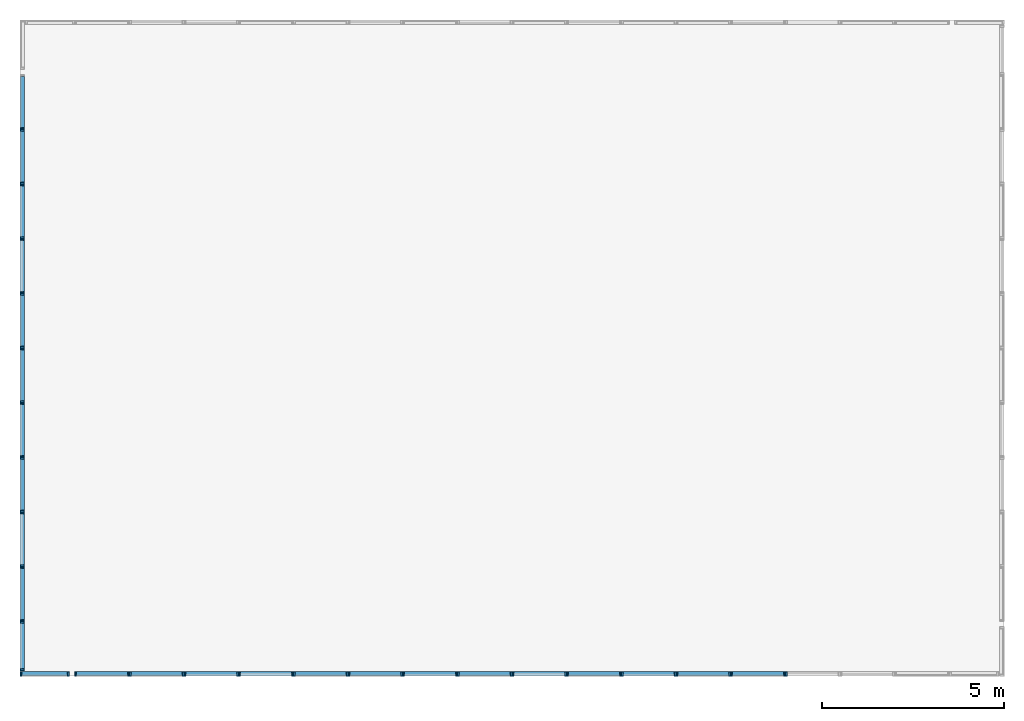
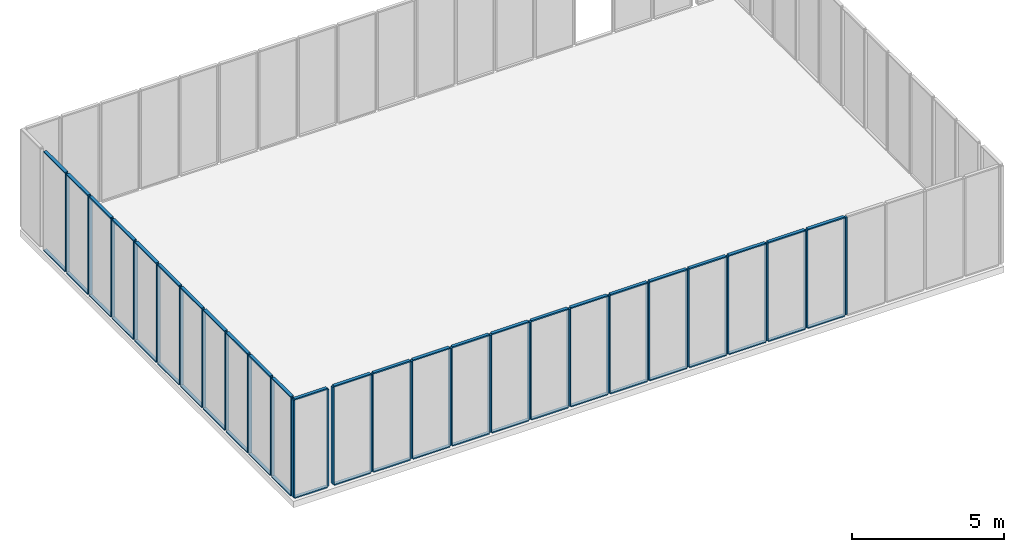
# One storey, part 1 of 4: 100 members.
"""IFC4 building model written with IfcOpenShell, lengths in metres."""

import ifcopenshell
import ifcopenshell.guid

model = None  # the IFC model being written
_history = None  # IfcOwnerHistory: only IFC2X3 demands one
_inside = {}  # id of a spatial element -> (the spatial element, [elements in it])
_under = {}  # id of a project, library or spatial element -> (it, [spatial elements below it])
_declared = {}  # id of a project -> (the project, [libraries it declares])
_typed = {}  # id of a type object -> (the type object, [elements of that type])
_made_of = {}  # id of a material, layer set ... -> (it, [elements and type objects made of it])


def new_model(schema):
    """Start an empty IFC model of exactly this schema.

    Asked for "IFC4X3", IfcOpenShell would pick the latest addendum, in which some entities
    have other attributes; the version numbers below select the first issue.
    IFC2X3 requires an IfcOwnerHistory on every rooted entity: one is made here for all.
    """
    global model, _history
    if schema == "IFC4X3":
        model = ifcopenshell.file(schema_version=(4, 3, 0, 0))
    else:
        model = ifcopenshell.file(schema=schema)
    _inside.clear()
    _under.clear()
    _declared.clear()
    _typed.clear()
    _made_of.clear()
    _history = None
    if model.schema == "IFC2X3":
        org = make("IfcOrganization", Name="unknown")
        user = make(
            "IfcPersonAndOrganization",
            ThePerson=make("IfcPerson", FamilyName="unknown"),
            TheOrganization=org,
        )
        app = make(
            "IfcApplication",
            ApplicationDeveloper=org,
            Version="unknown",
            ApplicationFullName="unknown",
            ApplicationIdentifier="unknown",
        )
        _history = make(
            "IfcOwnerHistory",
            OwningUser=user,
            OwningApplication=app,
            ChangeAction="ADDED",
            CreationDate=0,
        )
    return model


def make(cls, **values):
    """One entity of the class cls with the attributes given. An attribute that is None is left unset."""
    return model.create_entity(
        cls, **{name: value for name, value in values.items() if value is not None}
    )


def rooted(cls, **values):
    """An entity with a GlobalId (a new one), such as an element, a storey or a relation."""
    return make(cls, GlobalId=ifcopenshell.guid.new(), OwnerHistory=_history, **values)


def si_unit(unit_type, name, prefix=None):
    """IfcSIUnit, for example si_unit("LENGTHUNIT", "METRE", prefix="MILLI")."""
    return make("IfcSIUnit", UnitType=unit_type, Prefix=prefix, Name=name)


def assignment(units):
    """IfcUnitAssignment: the units of a project."""
    return None if units is None else make("IfcUnitAssignment", Units=units)


def point(xyz):
    """IfcCartesianPoint."""
    return None if xyz is None else make("IfcCartesianPoint", Coordinates=xyz)


def direction(xyz):
    """IfcDirection."""
    return None if xyz is None else make("IfcDirection", DirectionRatios=xyz)


def frame(location, z_axis=None, x_axis=None):
    """IfcAxis2Placement3D, a coordinate frame: its origin and axes. An axis left out is left unset."""
    return make(
        "IfcAxis2Placement3D",
        Location=point(location),
        Axis=direction(z_axis),
        RefDirection=direction(x_axis),
    )


def origin_with_axes():
    """The frame at (0, 0, 0) with the z axis (0, 0, 1) and the x axis (1, 0, 0) written out."""
    return frame((0.0, 0.0, 0.0), z_axis=(0.0, 0.0, 1.0), x_axis=(1.0, 0.0, 0.0))


def place(relative_to, where):
    """IfcLocalPlacement: puts the frame where relative to a parent placement (None: the world)."""
    return make(
        "IfcLocalPlacement", PlacementRelTo=relative_to, RelativePlacement=where
    )


def context(
    kind, dimensions, precision=None, world=None, true_north=None, identifier=None
):
    """IfcGeometricRepresentationContext, for example the 3D "Model" context."""
    return make(
        "IfcGeometricRepresentationContext",
        ContextIdentifier=identifier,
        ContextType=kind,
        CoordinateSpaceDimension=dimensions,
        Precision=precision,
        WorldCoordinateSystem=world,
        TrueNorth=true_north,
    )


def subcontext(parent, identifier, kind, view, scale=None):
    """IfcGeometricRepresentationSubContext, for example "Body" below "Model"."""
    return make(
        "IfcGeometricRepresentationSubContext",
        ContextIdentifier=identifier,
        ContextType=kind,
        ParentContext=parent,
        TargetScale=scale,
        TargetView=view,
    )


def project(units=None, contexts=None):
    """IfcProject with its units and contexts."""
    return rooted(
        "IfcProject",
        Name="project",
        RepresentationContexts=contexts,
        UnitsInContext=assignment(units),
    )


def spatial(cls, under=None, at=None, **own):
    """A site, building, storey or space (cls), placed at a placement, below another one or the project."""
    s = rooted(cls, ObjectPlacement=at, **own)
    if under is not None:
        _under.setdefault(under.id(), (under, []))[1].append(s)
    return s


def point_list(points):
    """IfcCartesianPointList2D or 3D."""
    cls = (
        "IfcCartesianPointList2D" if len(points[0]) == 2 else "IfcCartesianPointList3D"
    )
    return make(cls, CoordList=points)


def indexed_curve(points, segments=None, self_intersect=None):
    """IfcIndexedPolyCurve: lines and arcs through numbered points (the first is 1)."""
    return make(
        "IfcIndexedPolyCurve",
        Points=point_list(points),
        Segments=segments,
        SelfIntersect=self_intersect,
    )


def outline(outer, holes=None, kind="AREA"):
    """IfcArbitraryClosedProfileDef: a profile drawn as a closed curve; with holes, ...WithVoids."""
    if holes is None:
        return make("IfcArbitraryClosedProfileDef", ProfileType=kind, OuterCurve=outer)
    return make(
        "IfcArbitraryProfileDefWithVoids",
        ProfileType=kind,
        OuterCurve=outer,
        InnerCurves=holes,
    )


def extrude(swept, where, along, depth):
    """IfcExtrudedAreaSolid: the profile swept, set in the frame where, extruded along a direction by depth."""
    return make(
        "IfcExtrudedAreaSolid",
        SweptArea=swept,
        Position=where,
        ExtrudedDirection=direction(along),
        Depth=depth,
    )


def shape(context_of_items, identifier, shape_type, items):
    """IfcShapeRepresentation: the items that make up one representation, for example the "Body"."""
    return make(
        "IfcShapeRepresentation",
        ContextOfItems=context_of_items,
        RepresentationIdentifier=identifier,
        RepresentationType=shape_type,
        Items=items,
    )


def material(Name=None, Category=None):
    """IfcMaterial."""
    return make("IfcMaterial", Name=Name, Category=Category)


def made_of(thing, what):
    """Note that an element or type object is made of a material, layer set ...; save() writes the relation."""
    if what is not None:
        _made_of.setdefault(what.id(), (what, []))[1].append(thing)
    return thing


def element(
    cls,
    number,
    at=None,
    inside=None,
    cuts=None,
    type_object=None,
    material=None,
    context=None,
    identifier="Body",
    shape_type=None,
    held_by="IfcProductDefinitionShape",
    body=None,
    shapes=None,
    **own,
):
    """One element of the class cls, such as IfcWall. Its Tag is "e" and its number.

    at: its placement. inside: the storey or other place that contains it. cuts: it is an
    opening in that element (IfcRelVoidsElement). A single representation is given by context,
    identifier, shape_type and body (its items); several are given by shapes. held_by: the class
    of the entity that holds the representations. save() writes the other relations.
    """
    e = rooted(cls, Tag="e%d" % number, ObjectPlacement=at, **own)
    if body is not None:
        shapes = [shape(context, identifier, shape_type, body)]
    if shapes is not None:
        e.Representation = make(held_by, Representations=shapes)
    if inside is not None:
        _inside.setdefault(inside.id(), (inside, []))[1].append(e)
    if cuts is not None:
        rooted(
            "IfcRelVoidsElement", RelatingBuildingElement=cuts, RelatedOpeningElement=e
        )
    if type_object is not None:
        _typed.setdefault(type_object.id(), (type_object, []))[1].append(e)
    return made_of(e, material)


def aggregate(whole, parts):
    """IfcRelAggregates: a whole, such as a stair, and the parts it consists of."""
    return rooted("IfcRelAggregates", RelatingObject=whole, RelatedObjects=parts)


def save(model, path):
    """Write the relations noted so far, then the file.

    IfcRelAggregates (storeys below a building ...), IfcRelContainedInSpatialStructure (elements
    in a storey), IfcRelDefinesByType, IfcRelAssociatesMaterial and IfcRelDeclares: one each for
    every whole, place, type object, material and project.
    """
    for whole, parts in _under.values():
        aggregate(whole, parts)
    for where, things in _inside.values():
        rooted(
            "IfcRelContainedInSpatialStructure",
            RelatedElements=things,
            RelatingStructure=where,
        )
    for kind, things in _typed.values():
        rooted("IfcRelDefinesByType", RelatedObjects=things, RelatingType=kind)
    for what, things in _made_of.values():
        rooted("IfcRelAssociatesMaterial", RelatedObjects=things, RelatingMaterial=what)
    for by, libraries in _declared.values():
        rooted("IfcRelDeclares", RelatingContext=by, RelatedDefinitions=libraries)
    model.write(path)


model = new_model("IFC4")

# Units and contexts
model_context = context("Model", 3, precision=1e-05, world=origin_with_axes())
body_context = subcontext(model_context, "Body", "Model", "MODEL_VIEW")
ifc_project = project(units=[si_unit("AREAUNIT", "SQUARE_METRE"), si_unit("VOLUMEUNIT", "CUBIC_METRE"), si_unit("LENGTHUNIT", "METRE")], contexts=[model_context])

# Site, building, storey
site = spatial("IfcSite", under=ifc_project, Name="Synthetic Site")
building = spatial("IfcBuilding", under=site, Name="Complex Tower")
storey_placement = place(None, frame((0.0, 0.0, 8.4), z_axis=(0.0, 0.0, 1.0), x_axis=(1.0, 0.0, 0.0)))
storey = spatial("IfcBuildingStorey", under=building, at=storey_placement, Name="L03", Elevation=8.4)

# Members
ifc_material = material(Name="Aluminium")
for number, where, z_axis, x_axis, name in (
    (1, (0.0, 0.0, 0.15000000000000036), (0.0, 0.0, 1.0), (1.0, 0.0, 0.0), "CT-L03-S-001-ML"),
    (2, (1.3, 0.0, 0.15000000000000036), (0.0, 0.0, 1.0), (1.0, 0.0, 0.0), "CT-L03-S-001-MR"),
):
    element("IfcMember", number, at=place(storey_placement, frame(where, z_axis=z_axis, x_axis=x_axis)), inside=storey, material=ifc_material, Name=name, PredefinedType="MULLION", context=body_context, shape_type="SweptSolid", body=[
        extrude(outline(indexed_curve([(0.0, 0.0), (0.0, 0.12), (0.05, 0.12), (0.05, 0.0), (0.0, 0.0)], self_intersect=False)), origin_with_axes(), (0.0, 0.0, 1.0), 3.9000000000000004),
    ])
for number, where, z_axis, x_axis, name in (
    (3, (0.05, 0.0, 0.09999999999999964), (0.0, 0.0, 1.0), (1.0, 0.0, 0.0), "CT-L03-S-001-FB"),
    (4, (0.05, 0.0, 4.050000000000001), (0.0, 0.0, 1.0), (1.0, 0.0, 0.0), "CT-L03-S-001-FT"),
):
    element("IfcMember", number, at=place(storey_placement, frame(where, z_axis=z_axis, x_axis=x_axis)), inside=storey, material=ifc_material, Name=name, PredefinedType="MULLION", context=body_context, shape_type="SweptSolid", body=[
        extrude(outline(indexed_curve([(0.0, 0.0), (0.0, 0.12), (1.25, 0.12), (1.25, 0.0), (0.0, 0.0)], self_intersect=False)), origin_with_axes(), (0.0, 0.0, 1.0), 0.05),
    ])
for number, where, z_axis, x_axis, name in (
    (5, (1.5, 0.0, 0.15000000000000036), (0.0, 0.0, 1.0), (1.0, 0.0, 0.0), "CT-L03-S-002-ML"),
    (6, (2.95, 0.0, 0.15000000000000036), (0.0, 0.0, 1.0), (1.0, 0.0, 0.0), "CT-L03-S-002-MR"),
):
    element("IfcMember", number, at=place(storey_placement, frame(where, z_axis=z_axis, x_axis=x_axis)), inside=storey, material=ifc_material, Name=name, PredefinedType="MULLION", context=body_context, shape_type="SweptSolid", body=[
        extrude(outline(indexed_curve([(0.0, 0.0), (0.0, 0.12), (0.05, 0.12), (0.05, 0.0), (0.0, 0.0)], self_intersect=False)), origin_with_axes(), (0.0, 0.0, 1.0), 3.9000000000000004),
    ])
for number, where, z_axis, x_axis, name in (
    (7, (1.55, 0.0, 0.09999999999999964), (0.0, 0.0, 1.0), (1.0, 0.0, 0.0), "CT-L03-S-002-FB"),
    (8, (1.55, 0.0, 4.050000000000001), (0.0, 0.0, 1.0), (1.0, 0.0, 0.0), "CT-L03-S-002-FT"),
):
    element("IfcMember", number, at=place(storey_placement, frame(where, z_axis=z_axis, x_axis=x_axis)), inside=storey, material=ifc_material, Name=name, PredefinedType="MULLION", context=body_context, shape_type="SweptSolid", body=[
        extrude(outline(indexed_curve([(0.0, 0.0), (0.0, 0.12), (1.4, 0.12), (1.4, 0.0), (0.0, 0.0)], self_intersect=False)), origin_with_axes(), (0.0, 0.0, 1.0), 0.05),
    ])
for number, where, z_axis, x_axis, name in (
    (9, (3.0, 0.0, 0.15000000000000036), (0.0, 0.0, 1.0), (1.0, 0.0, 0.0), "CT-L03-S-003-ML"),
    (10, (4.449999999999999, 0.0, 0.15000000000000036), (0.0, 0.0, 1.0), (1.0, 0.0, 0.0), "CT-L03-S-003-MR"),
):
    element("IfcMember", number, at=place(storey_placement, frame(where, z_axis=z_axis, x_axis=x_axis)), inside=storey, material=ifc_material, Name=name, PredefinedType="MULLION", context=body_context, shape_type="SweptSolid", body=[
        extrude(outline(indexed_curve([(0.0, 0.0), (0.0, 0.12), (0.05, 0.12), (0.05, 0.0), (0.0, 0.0)], self_intersect=False)), origin_with_axes(), (0.0, 0.0, 1.0), 3.9000000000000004),
    ])
for number, where, z_axis, x_axis, name in (
    (11, (3.05, 0.0, 0.09999999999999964), (0.0, 0.0, 1.0), (1.0, 0.0, 0.0), "CT-L03-S-003-FB"),
    (12, (3.05, 0.0, 4.050000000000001), (0.0, 0.0, 1.0), (1.0, 0.0, 0.0), "CT-L03-S-003-FT"),
):
    element("IfcMember", number, at=place(storey_placement, frame(where, z_axis=z_axis, x_axis=x_axis)), inside=storey, material=ifc_material, Name=name, PredefinedType="MULLION", context=body_context, shape_type="SweptSolid", body=[
        extrude(outline(indexed_curve([(0.0, 0.0), (0.0, 0.12), (1.4, 0.12), (1.4, 0.0), (0.0, 0.0)], self_intersect=False)), origin_with_axes(), (0.0, 0.0, 1.0), 0.05),
    ])
for number, where, z_axis, x_axis, name in (
    (13, (4.5, 0.0, 0.15000000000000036), (0.0, 0.0, 1.0), (1.0, 0.0, 0.0), "CT-L03-S-004-ML"),
    (14, (5.949999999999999, 0.0, 0.15000000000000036), (0.0, 0.0, 1.0), (1.0, 0.0, 0.0), "CT-L03-S-004-MR"),
):
    element("IfcMember", number, at=place(storey_placement, frame(where, z_axis=z_axis, x_axis=x_axis)), inside=storey, material=ifc_material, Name=name, PredefinedType="MULLION", context=body_context, shape_type="SweptSolid", body=[
        extrude(outline(indexed_curve([(0.0, 0.0), (0.0, 0.12), (0.05, 0.12), (0.05, 0.0), (0.0, 0.0)], self_intersect=False)), origin_with_axes(), (0.0, 0.0, 1.0), 3.9000000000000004),
    ])
for number, where, z_axis, x_axis, name in (
    (15, (4.55, 0.0, 0.09999999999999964), (0.0, 0.0, 1.0), (1.0, 0.0, 0.0), "CT-L03-S-004-FB"),
    (16, (4.55, 0.0, 4.050000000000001), (0.0, 0.0, 1.0), (1.0, 0.0, 0.0), "CT-L03-S-004-FT"),
):
    element("IfcMember", number, at=place(storey_placement, frame(where, z_axis=z_axis, x_axis=x_axis)), inside=storey, material=ifc_material, Name=name, PredefinedType="MULLION", context=body_context, shape_type="SweptSolid", body=[
        extrude(outline(indexed_curve([(0.0, 0.0), (0.0, 0.12), (1.4, 0.12), (1.4, 0.0), (0.0, 0.0)], self_intersect=False)), origin_with_axes(), (0.0, 0.0, 1.0), 0.05),
    ])
for number, where, z_axis, x_axis, name in (
    (17, (6.0, 0.0, 0.15000000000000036), (0.0, 0.0, 1.0), (1.0, 0.0, 0.0), "CT-L03-S-005-ML"),
    (18, (7.449999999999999, 0.0, 0.15000000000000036), (0.0, 0.0, 1.0), (1.0, 0.0, 0.0), "CT-L03-S-005-MR"),
):
    element("IfcMember", number, at=place(storey_placement, frame(where, z_axis=z_axis, x_axis=x_axis)), inside=storey, material=ifc_material, Name=name, PredefinedType="MULLION", context=body_context, shape_type="SweptSolid", body=[
        extrude(outline(indexed_curve([(0.0, 0.0), (0.0, 0.12), (0.05, 0.12), (0.05, 0.0), (0.0, 0.0)], self_intersect=False)), origin_with_axes(), (0.0, 0.0, 1.0), 3.9000000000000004),
    ])
for number, where, z_axis, x_axis, name in (
    (19, (6.05, 0.0, 0.09999999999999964), (0.0, 0.0, 1.0), (1.0, 0.0, 0.0), "CT-L03-S-005-FB"),
    (20, (6.05, 0.0, 4.050000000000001), (0.0, 0.0, 1.0), (1.0, 0.0, 0.0), "CT-L03-S-005-FT"),
):
    element("IfcMember", number, at=place(storey_placement, frame(where, z_axis=z_axis, x_axis=x_axis)), inside=storey, material=ifc_material, Name=name, PredefinedType="MULLION", context=body_context, shape_type="SweptSolid", body=[
        extrude(outline(indexed_curve([(0.0, 0.0), (0.0, 0.12), (1.4, 0.12), (1.4, 0.0), (0.0, 0.0)], self_intersect=False)), origin_with_axes(), (0.0, 0.0, 1.0), 0.05),
    ])
for number, where, z_axis, x_axis, name in (
    (21, (7.5, 0.0, 0.15000000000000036), (0.0, 0.0, 1.0), (1.0, 0.0, 0.0), "CT-L03-S-006-ML"),
    (22, (8.95, 0.0, 0.15000000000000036), (0.0, 0.0, 1.0), (1.0, 0.0, 0.0), "CT-L03-S-006-MR"),
):
    element("IfcMember", number, at=place(storey_placement, frame(where, z_axis=z_axis, x_axis=x_axis)), inside=storey, material=ifc_material, Name=name, PredefinedType="MULLION", context=body_context, shape_type="SweptSolid", body=[
        extrude(outline(indexed_curve([(0.0, 0.0), (0.0, 0.12), (0.05, 0.12), (0.05, 0.0), (0.0, 0.0)], self_intersect=False)), origin_with_axes(), (0.0, 0.0, 1.0), 3.9000000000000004),
    ])
for number, where, z_axis, x_axis, name in (
    (23, (7.55, 0.0, 0.09999999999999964), (0.0, 0.0, 1.0), (1.0, 0.0, 0.0), "CT-L03-S-006-FB"),
    (24, (7.55, 0.0, 4.050000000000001), (0.0, 0.0, 1.0), (1.0, 0.0, 0.0), "CT-L03-S-006-FT"),
):
    element("IfcMember", number, at=place(storey_placement, frame(where, z_axis=z_axis, x_axis=x_axis)), inside=storey, material=ifc_material, Name=name, PredefinedType="MULLION", context=body_context, shape_type="SweptSolid", body=[
        extrude(outline(indexed_curve([(0.0, 0.0), (0.0, 0.12), (1.4, 0.12), (1.4, 0.0), (0.0, 0.0)], self_intersect=False)), origin_with_axes(), (0.0, 0.0, 1.0), 0.05),
    ])
for number, where, z_axis, x_axis, name in (
    (25, (9.0, 0.0, 0.15000000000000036), (0.0, 0.0, 1.0), (1.0, 0.0, 0.0), "CT-L03-S-007-ML"),
    (26, (10.450000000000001, 0.0, 0.15000000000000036), (0.0, 0.0, 1.0), (1.0, 0.0, 0.0), "CT-L03-S-007-MR"),
):
    element("IfcMember", number, at=place(storey_placement, frame(where, z_axis=z_axis, x_axis=x_axis)), inside=storey, material=ifc_material, Name=name, PredefinedType="MULLION", context=body_context, shape_type="SweptSolid", body=[
        extrude(outline(indexed_curve([(0.0, 0.0), (0.0, 0.12), (0.05, 0.12), (0.05, 0.0), (0.0, 0.0)], self_intersect=False)), origin_with_axes(), (0.0, 0.0, 1.0), 3.9000000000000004),
    ])
for number, where, z_axis, x_axis, name in (
    (27, (9.05, 0.0, 0.09999999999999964), (0.0, 0.0, 1.0), (1.0, 0.0, 0.0), "CT-L03-S-007-FB"),
    (28, (9.05, 0.0, 4.050000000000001), (0.0, 0.0, 1.0), (1.0, 0.0, 0.0), "CT-L03-S-007-FT"),
):
    element("IfcMember", number, at=place(storey_placement, frame(where, z_axis=z_axis, x_axis=x_axis)), inside=storey, material=ifc_material, Name=name, PredefinedType="MULLION", context=body_context, shape_type="SweptSolid", body=[
        extrude(outline(indexed_curve([(0.0, 0.0), (0.0, 0.12), (1.4, 0.12), (1.4, 0.0), (0.0, 0.0)], self_intersect=False)), origin_with_axes(), (0.0, 0.0, 1.0), 0.05),
    ])
for number, where, z_axis, x_axis, name in (
    (29, (10.5, 0.0, 0.15000000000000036), (0.0, 0.0, 1.0), (1.0, 0.0, 0.0), "CT-L03-S-008-ML"),
    (30, (11.950000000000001, 0.0, 0.15000000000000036), (0.0, 0.0, 1.0), (1.0, 0.0, 0.0), "CT-L03-S-008-MR"),
):
    element("IfcMember", number, at=place(storey_placement, frame(where, z_axis=z_axis, x_axis=x_axis)), inside=storey, material=ifc_material, Name=name, PredefinedType="MULLION", context=body_context, shape_type="SweptSolid", body=[
        extrude(outline(indexed_curve([(0.0, 0.0), (0.0, 0.12), (0.05, 0.12), (0.05, 0.0), (0.0, 0.0)], self_intersect=False)), origin_with_axes(), (0.0, 0.0, 1.0), 3.9000000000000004),
    ])
for number, where, z_axis, x_axis, name in (
    (31, (10.55, 0.0, 0.09999999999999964), (0.0, 0.0, 1.0), (1.0, 0.0, 0.0), "CT-L03-S-008-FB"),
    (32, (10.55, 0.0, 4.050000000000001), (0.0, 0.0, 1.0), (1.0, 0.0, 0.0), "CT-L03-S-008-FT"),
):
    element("IfcMember", number, at=place(storey_placement, frame(where, z_axis=z_axis, x_axis=x_axis)), inside=storey, material=ifc_material, Name=name, PredefinedType="MULLION", context=body_context, shape_type="SweptSolid", body=[
        extrude(outline(indexed_curve([(0.0, 0.0), (0.0, 0.12), (1.4, 0.12), (1.4, 0.0), (0.0, 0.0)], self_intersect=False)), origin_with_axes(), (0.0, 0.0, 1.0), 0.05),
    ])
for number, where, z_axis, x_axis, name in (
    (33, (12.0, 0.0, 0.15000000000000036), (0.0, 0.0, 1.0), (1.0, 0.0, 0.0), "CT-L03-S-009-ML"),
    (34, (13.450000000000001, 0.0, 0.15000000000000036), (0.0, 0.0, 1.0), (1.0, 0.0, 0.0), "CT-L03-S-009-MR"),
):
    element("IfcMember", number, at=place(storey_placement, frame(where, z_axis=z_axis, x_axis=x_axis)), inside=storey, material=ifc_material, Name=name, PredefinedType="MULLION", context=body_context, shape_type="SweptSolid", body=[
        extrude(outline(indexed_curve([(0.0, 0.0), (0.0, 0.12), (0.05, 0.12), (0.05, 0.0), (0.0, 0.0)], self_intersect=False)), origin_with_axes(), (0.0, 0.0, 1.0), 3.9000000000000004),
    ])
for number, where, z_axis, x_axis, name in (
    (35, (12.05, 0.0, 0.09999999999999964), (0.0, 0.0, 1.0), (1.0, 0.0, 0.0), "CT-L03-S-009-FB"),
    (36, (12.05, 0.0, 4.050000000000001), (0.0, 0.0, 1.0), (1.0, 0.0, 0.0), "CT-L03-S-009-FT"),
):
    element("IfcMember", number, at=place(storey_placement, frame(where, z_axis=z_axis, x_axis=x_axis)), inside=storey, material=ifc_material, Name=name, PredefinedType="MULLION", context=body_context, shape_type="SweptSolid", body=[
        extrude(outline(indexed_curve([(0.0, 0.0), (0.0, 0.12), (1.4, 0.12), (1.4, 0.0), (0.0, 0.0)], self_intersect=False)), origin_with_axes(), (0.0, 0.0, 1.0), 0.05),
    ])
for number, where, z_axis, x_axis, name in (
    (37, (13.5, 0.0, 0.15000000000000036), (0.0, 0.0, 1.0), (1.0, 0.0, 0.0), "CT-L03-S-010-ML"),
    (38, (14.950000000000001, 0.0, 0.15000000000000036), (0.0, 0.0, 1.0), (1.0, 0.0, 0.0), "CT-L03-S-010-MR"),
):
    element("IfcMember", number, at=place(storey_placement, frame(where, z_axis=z_axis, x_axis=x_axis)), inside=storey, material=ifc_material, Name=name, PredefinedType="MULLION", context=body_context, shape_type="SweptSolid", body=[
        extrude(outline(indexed_curve([(0.0, 0.0), (0.0, 0.12), (0.05, 0.12), (0.05, 0.0), (0.0, 0.0)], self_intersect=False)), origin_with_axes(), (0.0, 0.0, 1.0), 3.9000000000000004),
    ])
for number, where, z_axis, x_axis, name in (
    (39, (13.55, 0.0, 0.09999999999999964), (0.0, 0.0, 1.0), (1.0, 0.0, 0.0), "CT-L03-S-010-FB"),
    (40, (13.55, 0.0, 4.050000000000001), (0.0, 0.0, 1.0), (1.0, 0.0, 0.0), "CT-L03-S-010-FT"),
):
    element("IfcMember", number, at=place(storey_placement, frame(where, z_axis=z_axis, x_axis=x_axis)), inside=storey, material=ifc_material, Name=name, PredefinedType="MULLION", context=body_context, shape_type="SweptSolid", body=[
        extrude(outline(indexed_curve([(0.0, 0.0), (0.0, 0.12), (1.4, 0.12), (1.4, 0.0), (0.0, 0.0)], self_intersect=False)), origin_with_axes(), (0.0, 0.0, 1.0), 0.05),
    ])
for number, where, z_axis, x_axis, name in (
    (41, (15.0, 0.0, 0.15000000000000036), (0.0, 0.0, 1.0), (1.0, 0.0, 0.0), "CT-L03-S-011-ML"),
    (42, (16.45, 0.0, 0.15000000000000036), (0.0, 0.0, 1.0), (1.0, 0.0, 0.0), "CT-L03-S-011-MR"),
):
    element("IfcMember", number, at=place(storey_placement, frame(where, z_axis=z_axis, x_axis=x_axis)), inside=storey, material=ifc_material, Name=name, PredefinedType="MULLION", context=body_context, shape_type="SweptSolid", body=[
        extrude(outline(indexed_curve([(0.0, 0.0), (0.0, 0.12), (0.05, 0.12), (0.05, 0.0), (0.0, 0.0)], self_intersect=False)), origin_with_axes(), (0.0, 0.0, 1.0), 3.9000000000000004),
    ])
for number, where, z_axis, x_axis, name in (
    (43, (15.05, 0.0, 0.09999999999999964), (0.0, 0.0, 1.0), (1.0, 0.0, 0.0), "CT-L03-S-011-FB"),
    (44, (15.05, 0.0, 4.050000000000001), (0.0, 0.0, 1.0), (1.0, 0.0, 0.0), "CT-L03-S-011-FT"),
):
    element("IfcMember", number, at=place(storey_placement, frame(where, z_axis=z_axis, x_axis=x_axis)), inside=storey, material=ifc_material, Name=name, PredefinedType="MULLION", context=body_context, shape_type="SweptSolid", body=[
        extrude(outline(indexed_curve([(0.0, 0.0), (0.0, 0.12), (1.4, 0.12), (1.4, 0.0), (0.0, 0.0)], self_intersect=False)), origin_with_axes(), (0.0, 0.0, 1.0), 0.05),
    ])
for number, where, z_axis, x_axis, name in (
    (45, (16.5, 0.0, 0.15000000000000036), (0.0, 0.0, 1.0), (1.0, 0.0, 0.0), "CT-L03-S-012-ML"),
    (46, (17.95, 0.0, 0.15000000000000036), (0.0, 0.0, 1.0), (1.0, 0.0, 0.0), "CT-L03-S-012-MR"),
):
    element("IfcMember", number, at=place(storey_placement, frame(where, z_axis=z_axis, x_axis=x_axis)), inside=storey, material=ifc_material, Name=name, PredefinedType="MULLION", context=body_context, shape_type="SweptSolid", body=[
        extrude(outline(indexed_curve([(0.0, 0.0), (0.0, 0.12), (0.05, 0.12), (0.05, 0.0), (0.0, 0.0)], self_intersect=False)), origin_with_axes(), (0.0, 0.0, 1.0), 3.9000000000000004),
    ])
for number, where, z_axis, x_axis, name in (
    (47, (16.55, 0.0, 0.09999999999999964), (0.0, 0.0, 1.0), (1.0, 0.0, 0.0), "CT-L03-S-012-FB"),
    (48, (16.55, 0.0, 4.050000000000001), (0.0, 0.0, 1.0), (1.0, 0.0, 0.0), "CT-L03-S-012-FT"),
):
    element("IfcMember", number, at=place(storey_placement, frame(where, z_axis=z_axis, x_axis=x_axis)), inside=storey, material=ifc_material, Name=name, PredefinedType="MULLION", context=body_context, shape_type="SweptSolid", body=[
        extrude(outline(indexed_curve([(0.0, 0.0), (0.0, 0.12), (1.4, 0.12), (1.4, 0.0), (0.0, 0.0)], self_intersect=False)), origin_with_axes(), (0.0, 0.0, 1.0), 0.05),
    ])
for number, where, z_axis, x_axis, name in (
    (49, (18.0, 0.0, 0.15000000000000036), (0.0, 0.0, 1.0), (1.0, 0.0, 0.0), "CT-L03-S-013-ML"),
    (50, (19.45, 0.0, 0.15000000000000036), (0.0, 0.0, 1.0), (1.0, 0.0, 0.0), "CT-L03-S-013-MR"),
):
    element("IfcMember", number, at=place(storey_placement, frame(where, z_axis=z_axis, x_axis=x_axis)), inside=storey, material=ifc_material, Name=name, PredefinedType="MULLION", context=body_context, shape_type="SweptSolid", body=[
        extrude(outline(indexed_curve([(0.0, 0.0), (0.0, 0.12), (0.05, 0.12), (0.05, 0.0), (0.0, 0.0)], self_intersect=False)), origin_with_axes(), (0.0, 0.0, 1.0), 3.9000000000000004),
    ])
for number, where, z_axis, x_axis, name in (
    (51, (18.05, 0.0, 0.09999999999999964), (0.0, 0.0, 1.0), (1.0, 0.0, 0.0), "CT-L03-S-013-FB"),
    (52, (18.05, 0.0, 4.050000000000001), (0.0, 0.0, 1.0), (1.0, 0.0, 0.0), "CT-L03-S-013-FT"),
):
    element("IfcMember", number, at=place(storey_placement, frame(where, z_axis=z_axis, x_axis=x_axis)), inside=storey, material=ifc_material, Name=name, PredefinedType="MULLION", context=body_context, shape_type="SweptSolid", body=[
        extrude(outline(indexed_curve([(0.0, 0.0), (0.0, 0.12), (1.4, 0.12), (1.4, 0.0), (0.0, 0.0)], self_intersect=False)), origin_with_axes(), (0.0, 0.0, 1.0), 0.05),
    ])
for number, where, z_axis, x_axis, name in (
    (53, (19.5, 0.0, 0.15000000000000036), (0.0, 0.0, 1.0), (1.0, 0.0, 0.0), "CT-L03-S-014-ML"),
    (54, (20.95, 0.0, 0.15000000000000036), (0.0, 0.0, 1.0), (1.0, 0.0, 0.0), "CT-L03-S-014-MR"),
):
    element("IfcMember", number, at=place(storey_placement, frame(where, z_axis=z_axis, x_axis=x_axis)), inside=storey, material=ifc_material, Name=name, PredefinedType="MULLION", context=body_context, shape_type="SweptSolid", body=[
        extrude(outline(indexed_curve([(0.0, 0.0), (0.0, 0.12), (0.05, 0.12), (0.05, 0.0), (0.0, 0.0)], self_intersect=False)), origin_with_axes(), (0.0, 0.0, 1.0), 3.9000000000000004),
    ])
for number, where, z_axis, x_axis, name in (
    (55, (19.55, 0.0, 0.09999999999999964), (0.0, 0.0, 1.0), (1.0, 0.0, 0.0), "CT-L03-S-014-FB"),
    (56, (19.55, 0.0, 4.050000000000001), (0.0, 0.0, 1.0), (1.0, 0.0, 0.0), "CT-L03-S-014-FT"),
):
    element("IfcMember", number, at=place(storey_placement, frame(where, z_axis=z_axis, x_axis=x_axis)), inside=storey, material=ifc_material, Name=name, PredefinedType="MULLION", context=body_context, shape_type="SweptSolid", body=[
        extrude(outline(indexed_curve([(0.0, 0.0), (0.0, 0.12), (1.4, 0.12), (1.4, 0.0), (0.0, 0.0)], self_intersect=False)), origin_with_axes(), (0.0, 0.0, 1.0), 0.05),
    ])
for number, where, z_axis, x_axis, name in (
    (57, (21.0, 0.0, 0.15000000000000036), (0.0, 0.0, 1.0), (1.0, 0.0, 0.0), "CT-L03-S-015-ML"),
    (58, (-5.419062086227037e-16, 15.049999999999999, 0.15000000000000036), (0.0, 0.0, 1.0), (-1.8369701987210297e-16, -1.0, 0.0), "CT-L03-W-002-MR"),
):
    element("IfcMember", number, at=place(storey_placement, frame(where, z_axis=z_axis, x_axis=x_axis)), inside=storey, material=ifc_material, Name=name, PredefinedType="MULLION", context=body_context, shape_type="SweptSolid", body=[
        extrude(outline(indexed_curve([(0.0, 0.0), (0.0, 0.12), (0.05, 0.12), (0.05, 0.0), (0.0, 0.0)], self_intersect=False)), origin_with_axes(), (0.0, 0.0, 1.0), 3.9000000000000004),
    ])
for number, where, z_axis, x_axis, name in (
    (59, (-2.847303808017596e-16, 16.45, 0.09999999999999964), (0.0, 0.0, 1.0), (-1.8369701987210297e-16, -1.0, 0.0), "CT-L03-W-002-FB"),
    (60, (-2.847303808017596e-16, 16.45, 4.050000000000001), (0.0, 0.0, 1.0), (-1.8369701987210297e-16, -1.0, 0.0), "CT-L03-W-002-FT"),
):
    element("IfcMember", number, at=place(storey_placement, frame(where, z_axis=z_axis, x_axis=x_axis)), inside=storey, material=ifc_material, Name=name, PredefinedType="MULLION", context=body_context, shape_type="SweptSolid", body=[
        extrude(outline(indexed_curve([(0.0, 0.0), (0.0, 0.12), (1.4, 0.12), (1.4, 0.0), (0.0, 0.0)], self_intersect=False)), origin_with_axes(), (0.0, 0.0, 1.0), 0.05),
    ])
for number, where, z_axis, x_axis, name in (
    (61, (-5.510910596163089e-16, 15.0, 0.15000000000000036), (0.0, 0.0, 1.0), (-1.8369701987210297e-16, -1.0, 0.0), "CT-L03-W-003-ML"),
    (62, (-8.174517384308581e-16, 13.549999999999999, 0.15000000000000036), (0.0, 0.0, 1.0), (-1.8369701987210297e-16, -1.0, 0.0), "CT-L03-W-003-MR"),
):
    element("IfcMember", number, at=place(storey_placement, frame(where, z_axis=z_axis, x_axis=x_axis)), inside=storey, material=ifc_material, Name=name, PredefinedType="MULLION", context=body_context, shape_type="SweptSolid", body=[
        extrude(outline(indexed_curve([(0.0, 0.0), (0.0, 0.12), (0.05, 0.12), (0.05, 0.0), (0.0, 0.0)], self_intersect=False)), origin_with_axes(), (0.0, 0.0, 1.0), 3.9000000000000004),
    ])
for number, where, z_axis, x_axis, name in (
    (63, (-5.60275910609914e-16, 14.95, 0.09999999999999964), (0.0, 0.0, 1.0), (-1.8369701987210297e-16, -1.0, 0.0), "CT-L03-W-003-FB"),
    (64, (-5.60275910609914e-16, 14.95, 4.050000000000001), (0.0, 0.0, 1.0), (-1.8369701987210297e-16, -1.0, 0.0), "CT-L03-W-003-FT"),
):
    element("IfcMember", number, at=place(storey_placement, frame(where, z_axis=z_axis, x_axis=x_axis)), inside=storey, material=ifc_material, Name=name, PredefinedType="MULLION", context=body_context, shape_type="SweptSolid", body=[
        extrude(outline(indexed_curve([(0.0, 0.0), (0.0, 0.12), (1.4, 0.12), (1.4, 0.0), (0.0, 0.0)], self_intersect=False)), origin_with_axes(), (0.0, 0.0, 1.0), 0.05),
    ])
for number, where, z_axis, x_axis, name in (
    (65, (-8.266365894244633e-16, 13.5, 0.15000000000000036), (0.0, 0.0, 1.0), (-1.8369701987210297e-16, -1.0, 0.0), "CT-L03-W-004-ML"),
    (66, (-1.0929972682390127e-15, 12.049999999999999, 0.15000000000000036), (0.0, 0.0, 1.0), (-1.8369701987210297e-16, -1.0, 0.0), "CT-L03-W-004-MR"),
):
    element("IfcMember", number, at=place(storey_placement, frame(where, z_axis=z_axis, x_axis=x_axis)), inside=storey, material=ifc_material, Name=name, PredefinedType="MULLION", context=body_context, shape_type="SweptSolid", body=[
        extrude(outline(indexed_curve([(0.0, 0.0), (0.0, 0.12), (0.05, 0.12), (0.05, 0.0), (0.0, 0.0)], self_intersect=False)), origin_with_axes(), (0.0, 0.0, 1.0), 3.9000000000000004),
    ])
for number, where, z_axis, x_axis, name in (
    (67, (-8.358214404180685e-16, 13.45, 0.09999999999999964), (0.0, 0.0, 1.0), (-1.8369701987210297e-16, -1.0, 0.0), "CT-L03-W-004-FB"),
    (68, (-8.358214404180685e-16, 13.45, 4.050000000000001), (0.0, 0.0, 1.0), (-1.8369701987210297e-16, -1.0, 0.0), "CT-L03-W-004-FT"),
):
    element("IfcMember", number, at=place(storey_placement, frame(where, z_axis=z_axis, x_axis=x_axis)), inside=storey, material=ifc_material, Name=name, PredefinedType="MULLION", context=body_context, shape_type="SweptSolid", body=[
        extrude(outline(indexed_curve([(0.0, 0.0), (0.0, 0.12), (1.4, 0.12), (1.4, 0.0), (0.0, 0.0)], self_intersect=False)), origin_with_axes(), (0.0, 0.0, 1.0), 0.05),
    ])
for number, where, z_axis, x_axis, name in (
    (69, (-1.1021821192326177e-15, 12.0, 0.15000000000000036), (0.0, 0.0, 1.0), (-1.8369701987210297e-16, -1.0, 0.0), "CT-L03-W-005-ML"),
    (70, (-1.3685427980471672e-15, 10.549999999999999, 0.15000000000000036), (0.0, 0.0, 1.0), (-1.8369701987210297e-16, -1.0, 0.0), "CT-L03-W-005-MR"),
):
    element("IfcMember", number, at=place(storey_placement, frame(where, z_axis=z_axis, x_axis=x_axis)), inside=storey, material=ifc_material, Name=name, PredefinedType="MULLION", context=body_context, shape_type="SweptSolid", body=[
        extrude(outline(indexed_curve([(0.0, 0.0), (0.0, 0.12), (0.05, 0.12), (0.05, 0.0), (0.0, 0.0)], self_intersect=False)), origin_with_axes(), (0.0, 0.0, 1.0), 3.9000000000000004),
    ])
for number, where, z_axis, x_axis, name in (
    (71, (-1.111366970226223e-15, 11.95, 0.09999999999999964), (0.0, 0.0, 1.0), (-1.8369701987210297e-16, -1.0, 0.0), "CT-L03-W-005-FB"),
    (72, (-1.111366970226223e-15, 11.95, 4.050000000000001), (0.0, 0.0, 1.0), (-1.8369701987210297e-16, -1.0, 0.0), "CT-L03-W-005-FT"),
):
    element("IfcMember", number, at=place(storey_placement, frame(where, z_axis=z_axis, x_axis=x_axis)), inside=storey, material=ifc_material, Name=name, PredefinedType="MULLION", context=body_context, shape_type="SweptSolid", body=[
        extrude(outline(indexed_curve([(0.0, 0.0), (0.0, 0.12), (1.4, 0.12), (1.4, 0.0), (0.0, 0.0)], self_intersect=False)), origin_with_axes(), (0.0, 0.0, 1.0), 0.05),
    ])
for number, where, z_axis, x_axis, name in (
    (73, (-1.3777276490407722e-15, 10.5, 0.15000000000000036), (0.0, 0.0, 1.0), (-1.8369701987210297e-16, -1.0, 0.0), "CT-L03-W-006-ML"),
    (74, (-1.6440883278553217e-15, 9.049999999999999, 0.15000000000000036), (0.0, 0.0, 1.0), (-1.8369701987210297e-16, -1.0, 0.0), "CT-L03-W-006-MR"),
):
    element("IfcMember", number, at=place(storey_placement, frame(where, z_axis=z_axis, x_axis=x_axis)), inside=storey, material=ifc_material, Name=name, PredefinedType="MULLION", context=body_context, shape_type="SweptSolid", body=[
        extrude(outline(indexed_curve([(0.0, 0.0), (0.0, 0.12), (0.05, 0.12), (0.05, 0.0), (0.0, 0.0)], self_intersect=False)), origin_with_axes(), (0.0, 0.0, 1.0), 3.9000000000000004),
    ])
for number, where, z_axis, x_axis, name in (
    (75, (-1.3869125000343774e-15, 10.45, 0.09999999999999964), (0.0, 0.0, 1.0), (-1.8369701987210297e-16, -1.0, 0.0), "CT-L03-W-006-FB"),
    (76, (-1.3869125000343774e-15, 10.45, 4.050000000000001), (0.0, 0.0, 1.0), (-1.8369701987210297e-16, -1.0, 0.0), "CT-L03-W-006-FT"),
):
    element("IfcMember", number, at=place(storey_placement, frame(where, z_axis=z_axis, x_axis=x_axis)), inside=storey, material=ifc_material, Name=name, PredefinedType="MULLION", context=body_context, shape_type="SweptSolid", body=[
        extrude(outline(indexed_curve([(0.0, 0.0), (0.0, 0.12), (1.4, 0.12), (1.4, 0.0), (0.0, 0.0)], self_intersect=False)), origin_with_axes(), (0.0, 0.0, 1.0), 0.05),
    ])
for number, where, z_axis, x_axis, name in (
    (77, (-1.6532731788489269e-15, 9.0, 0.15000000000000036), (0.0, 0.0, 1.0), (-1.8369701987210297e-16, -1.0, 0.0), "CT-L03-W-007-ML"),
    (78, (-1.919633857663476e-15, 7.549999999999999, 0.15000000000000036), (0.0, 0.0, 1.0), (-1.8369701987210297e-16, -1.0, 0.0), "CT-L03-W-007-MR"),
):
    element("IfcMember", number, at=place(storey_placement, frame(where, z_axis=z_axis, x_axis=x_axis)), inside=storey, material=ifc_material, Name=name, PredefinedType="MULLION", context=body_context, shape_type="SweptSolid", body=[
        extrude(outline(indexed_curve([(0.0, 0.0), (0.0, 0.12), (0.05, 0.12), (0.05, 0.0), (0.0, 0.0)], self_intersect=False)), origin_with_axes(), (0.0, 0.0, 1.0), 3.9000000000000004),
    ])
for number, where, z_axis, x_axis, name in (
    (79, (-1.662458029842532e-15, 8.95, 0.09999999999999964), (0.0, 0.0, 1.0), (-1.8369701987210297e-16, -1.0, 0.0), "CT-L03-W-007-FB"),
    (80, (-1.662458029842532e-15, 8.95, 4.050000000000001), (0.0, 0.0, 1.0), (-1.8369701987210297e-16, -1.0, 0.0), "CT-L03-W-007-FT"),
):
    element("IfcMember", number, at=place(storey_placement, frame(where, z_axis=z_axis, x_axis=x_axis)), inside=storey, material=ifc_material, Name=name, PredefinedType="MULLION", context=body_context, shape_type="SweptSolid", body=[
        extrude(outline(indexed_curve([(0.0, 0.0), (0.0, 0.12), (1.4, 0.12), (1.4, 0.0), (0.0, 0.0)], self_intersect=False)), origin_with_axes(), (0.0, 0.0, 1.0), 0.05),
    ])
for number, where, z_axis, x_axis, name in (
    (81, (-1.9288187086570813e-15, 7.499999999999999, 0.15000000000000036), (0.0, 0.0, 1.0), (-1.8369701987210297e-16, -1.0, 0.0), "CT-L03-W-008-ML"),
    (82, (-2.1951793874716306e-15, 6.049999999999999, 0.15000000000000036), (0.0, 0.0, 1.0), (-1.8369701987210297e-16, -1.0, 0.0), "CT-L03-W-008-MR"),
):
    element("IfcMember", number, at=place(storey_placement, frame(where, z_axis=z_axis, x_axis=x_axis)), inside=storey, material=ifc_material, Name=name, PredefinedType="MULLION", context=body_context, shape_type="SweptSolid", body=[
        extrude(outline(indexed_curve([(0.0, 0.0), (0.0, 0.12), (0.05, 0.12), (0.05, 0.0), (0.0, 0.0)], self_intersect=False)), origin_with_axes(), (0.0, 0.0, 1.0), 3.9000000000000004),
    ])
for number, where, z_axis, x_axis, name in (
    (83, (-1.9380035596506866e-15, 7.449999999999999, 0.09999999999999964), (0.0, 0.0, 1.0), (-1.8369701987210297e-16, -1.0, 0.0), "CT-L03-W-008-FB"),
    (84, (-1.9380035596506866e-15, 7.449999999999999, 4.050000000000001), (0.0, 0.0, 1.0), (-1.8369701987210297e-16, -1.0, 0.0), "CT-L03-W-008-FT"),
):
    element("IfcMember", number, at=place(storey_placement, frame(where, z_axis=z_axis, x_axis=x_axis)), inside=storey, material=ifc_material, Name=name, PredefinedType="MULLION", context=body_context, shape_type="SweptSolid", body=[
        extrude(outline(indexed_curve([(0.0, 0.0), (0.0, 0.12), (1.4, 0.12), (1.4, 0.0), (0.0, 0.0)], self_intersect=False)), origin_with_axes(), (0.0, 0.0, 1.0), 0.05),
    ])
for number, where, z_axis, x_axis, name in (
    (85, (-2.204364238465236e-15, 5.999999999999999, 0.15000000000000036), (0.0, 0.0, 1.0), (-1.8369701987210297e-16, -1.0, 0.0), "CT-L03-W-009-ML"),
    (86, (-2.470724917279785e-15, 4.549999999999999, 0.15000000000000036), (0.0, 0.0, 1.0), (-1.8369701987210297e-16, -1.0, 0.0), "CT-L03-W-009-MR"),
):
    element("IfcMember", number, at=place(storey_placement, frame(where, z_axis=z_axis, x_axis=x_axis)), inside=storey, material=ifc_material, Name=name, PredefinedType="MULLION", context=body_context, shape_type="SweptSolid", body=[
        extrude(outline(indexed_curve([(0.0, 0.0), (0.0, 0.12), (0.05, 0.12), (0.05, 0.0), (0.0, 0.0)], self_intersect=False)), origin_with_axes(), (0.0, 0.0, 1.0), 3.9000000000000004),
    ])
for number, where, z_axis, x_axis, name in (
    (87, (-2.213549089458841e-15, 5.949999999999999, 0.09999999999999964), (0.0, 0.0, 1.0), (-1.8369701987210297e-16, -1.0, 0.0), "CT-L03-W-009-FB"),
    (88, (-2.213549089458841e-15, 5.949999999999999, 4.050000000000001), (0.0, 0.0, 1.0), (-1.8369701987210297e-16, -1.0, 0.0), "CT-L03-W-009-FT"),
):
    element("IfcMember", number, at=place(storey_placement, frame(where, z_axis=z_axis, x_axis=x_axis)), inside=storey, material=ifc_material, Name=name, PredefinedType="MULLION", context=body_context, shape_type="SweptSolid", body=[
        extrude(outline(indexed_curve([(0.0, 0.0), (0.0, 0.12), (1.4, 0.12), (1.4, 0.0), (0.0, 0.0)], self_intersect=False)), origin_with_axes(), (0.0, 0.0, 1.0), 0.05),
    ])
for number, where, z_axis, x_axis, name in (
    (89, (-2.4799097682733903e-15, 4.499999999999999, 0.15000000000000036), (0.0, 0.0, 1.0), (-1.8369701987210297e-16, -1.0, 0.0), "CT-L03-W-010-ML"),
    (90, (-2.7462704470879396e-15, 3.0499999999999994, 0.15000000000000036), (0.0, 0.0, 1.0), (-1.8369701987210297e-16, -1.0, 0.0), "CT-L03-W-010-MR"),
):
    element("IfcMember", number, at=place(storey_placement, frame(where, z_axis=z_axis, x_axis=x_axis)), inside=storey, material=ifc_material, Name=name, PredefinedType="MULLION", context=body_context, shape_type="SweptSolid", body=[
        extrude(outline(indexed_curve([(0.0, 0.0), (0.0, 0.12), (0.05, 0.12), (0.05, 0.0), (0.0, 0.0)], self_intersect=False)), origin_with_axes(), (0.0, 0.0, 1.0), 3.9000000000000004),
    ])
for number, where, z_axis, x_axis, name in (
    (91, (-2.4890946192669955e-15, 4.449999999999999, 0.09999999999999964), (0.0, 0.0, 1.0), (-1.8369701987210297e-16, -1.0, 0.0), "CT-L03-W-010-FB"),
    (92, (-2.4890946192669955e-15, 4.449999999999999, 4.050000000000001), (0.0, 0.0, 1.0), (-1.8369701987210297e-16, -1.0, 0.0), "CT-L03-W-010-FT"),
):
    element("IfcMember", number, at=place(storey_placement, frame(where, z_axis=z_axis, x_axis=x_axis)), inside=storey, material=ifc_material, Name=name, PredefinedType="MULLION", context=body_context, shape_type="SweptSolid", body=[
        extrude(outline(indexed_curve([(0.0, 0.0), (0.0, 0.12), (1.4, 0.12), (1.4, 0.0), (0.0, 0.0)], self_intersect=False)), origin_with_axes(), (0.0, 0.0, 1.0), 0.05),
    ])
for number, where, z_axis, x_axis, name in (
    (93, (-2.7554552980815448e-15, 2.999999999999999, 0.15000000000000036), (0.0, 0.0, 1.0), (-1.8369701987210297e-16, -1.0, 0.0), "CT-L03-W-011-ML"),
    (94, (-3.021815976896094e-15, 1.5499999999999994, 0.15000000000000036), (0.0, 0.0, 1.0), (-1.8369701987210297e-16, -1.0, 0.0), "CT-L03-W-011-MR"),
):
    element("IfcMember", number, at=place(storey_placement, frame(where, z_axis=z_axis, x_axis=x_axis)), inside=storey, material=ifc_material, Name=name, PredefinedType="MULLION", context=body_context, shape_type="SweptSolid", body=[
        extrude(outline(indexed_curve([(0.0, 0.0), (0.0, 0.12), (0.05, 0.12), (0.05, 0.0), (0.0, 0.0)], self_intersect=False)), origin_with_axes(), (0.0, 0.0, 1.0), 3.9000000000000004),
    ])
for number, where, z_axis, x_axis, name in (
    (95, (-2.76464014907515e-15, 2.9499999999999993, 0.09999999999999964), (0.0, 0.0, 1.0), (-1.8369701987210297e-16, -1.0, 0.0), "CT-L03-W-011-FB"),
    (96, (-2.76464014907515e-15, 2.9499999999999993, 4.050000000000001), (0.0, 0.0, 1.0), (-1.8369701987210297e-16, -1.0, 0.0), "CT-L03-W-011-FT"),
):
    element("IfcMember", number, at=place(storey_placement, frame(where, z_axis=z_axis, x_axis=x_axis)), inside=storey, material=ifc_material, Name=name, PredefinedType="MULLION", context=body_context, shape_type="SweptSolid", body=[
        extrude(outline(indexed_curve([(0.0, 0.0), (0.0, 0.12), (1.4, 0.12), (1.4, 0.0), (0.0, 0.0)], self_intersect=False)), origin_with_axes(), (0.0, 0.0, 1.0), 0.05),
    ])
for number, where, z_axis, x_axis, name in (
    (97, (-3.031000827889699e-15, 1.4999999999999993, 0.15000000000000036), (0.0, 0.0, 1.0), (-1.8369701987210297e-16, -1.0, 0.0), "CT-L03-W-012-ML"),
    (98, (-3.269806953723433e-15, 0.1999999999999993, 0.15000000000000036), (0.0, 0.0, 1.0), (-1.8369701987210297e-16, -1.0, 0.0), "CT-L03-W-012-MR"),
):
    element("IfcMember", number, at=place(storey_placement, frame(where, z_axis=z_axis, x_axis=x_axis)), inside=storey, material=ifc_material, Name=name, PredefinedType="MULLION", context=body_context, shape_type="SweptSolid", body=[
        extrude(outline(indexed_curve([(0.0, 0.0), (0.0, 0.12), (0.05, 0.12), (0.05, 0.0), (0.0, 0.0)], self_intersect=False)), origin_with_axes(), (0.0, 0.0, 1.0), 3.9000000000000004),
    ])
for number, where, z_axis, x_axis, name in (
    (99, (-3.040185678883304e-15, 1.4499999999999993, 0.09999999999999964), (0.0, 0.0, 1.0), (-1.8369701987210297e-16, -1.0, 0.0), "CT-L03-W-012-FB"),
    (100, (-3.040185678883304e-15, 1.4499999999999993, 4.050000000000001), (0.0, 0.0, 1.0), (-1.8369701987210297e-16, -1.0, 0.0), "CT-L03-W-012-FT"),
):
    element("IfcMember", number, at=place(storey_placement, frame(where, z_axis=z_axis, x_axis=x_axis)), inside=storey, material=ifc_material, Name=name, PredefinedType="MULLION", context=body_context, shape_type="SweptSolid", body=[
        extrude(outline(indexed_curve([(0.0, 0.0), (0.0, 0.12), (1.25, 0.12), (1.25, 0.0), (0.0, 0.0)], self_intersect=False)), origin_with_axes(), (0.0, 0.0, 1.0), 0.05),
    ])

save(model, "model.ifc")
